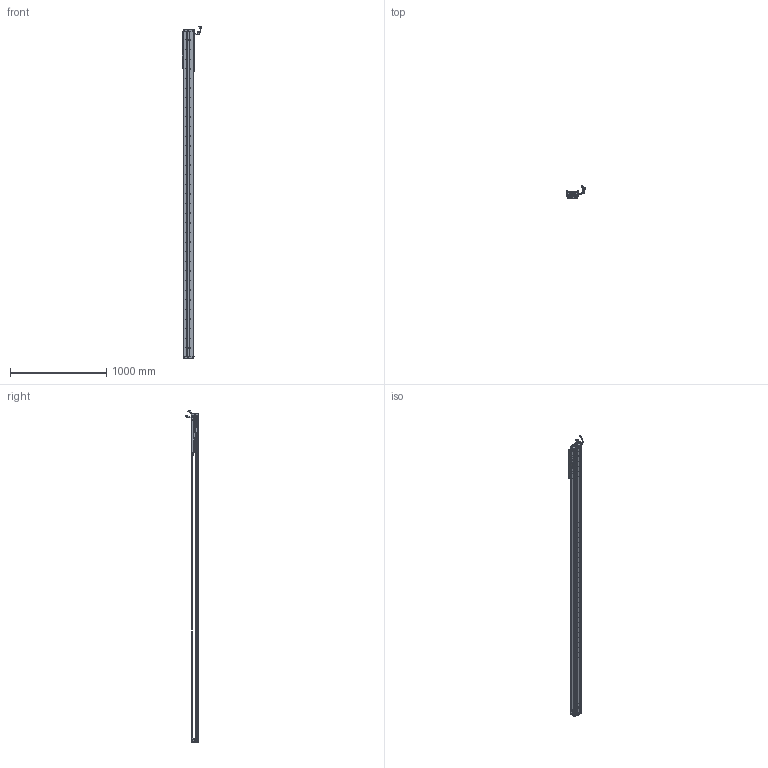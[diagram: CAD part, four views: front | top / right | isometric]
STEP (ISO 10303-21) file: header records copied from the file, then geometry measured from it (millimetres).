
FILE_DESCRIPTION (( 'STEP AP203' ), '1' );
FILE_NAME ('Z5-RY100D-1-L500-B-K.SLDASM_2950.step', '2021-05-17T03:35:50', ( '盈信电脑' ), ( '东莞市道滘镇水果街19号' ), 'SwSTEP 2.0', 'SolidWorks 2016', '' );
FILE_SCHEMA (( 'CONFIG_CONTROL_DESIGN' ));
Length unit declared in the file: millimetre
Products named in the file (36): Z5-RY100铝滑块（21款）; Z-RY100D詩湍奻揤裔; HARNESS-Part-1; PSLH080_PSLF2; SCREW-M1.6-1; Z5-RY100D-500-倰第菁釱_2950; Z5-RY100-L500詩湍90mm遵_2950; SCREW-M1.6; LABEL; SCREW-M1.6-3; HARNESS-Part-2; SCALE; Z-RY100D覜茼んえ; HOLDER0; SCREW-M1.6-2; SCREW-M1.7; 140雄赽晤鎢ん堤盄; SHIELDPLATE; COVER; SEAL-Part-1; Z-RY100D詩湍狟揤裔; PBU_SHEET; 140蚥薯蝶輸; 榋妏寠巭燃_暯_M2_2; 080黍杅芛假蚾釱21遴; Z-100詩湍傷裔啣; SEAL; SCALE-Part-2; COVER-Part-1; HARNESS; SCREW-M1.7-1; Z5-RY100D-1-L500-B-K.SLDASM_2950; SCALE-Part-1; 100-Z-臏賑輸盄裔(21遴); LABEL-Part-1; 覜茼ん672
Assembly tree (43 placements, depth 4):
  Z5-RY100D-1-L500-B-K.SLDASM_2950
    Z5-RY100D-500-倰第菁釱_2950
    Z5-RY100铝滑块（21款）
    PSLH080_PSLF2
      SCALE
        SCALE-Part-1
        SCALE-Part-2
      HARNESS
        HARNESS-Part-1
        HARNESS-Part-2
      LABEL
        LABEL-Part-1
      COVER
        COVER-Part-1
      SEAL
        SEAL-Part-1
      榋妏寠巭燃_暯_M2_2
      SHIELDPLATE
      SCREW-M1.7
      SCREW-M1.7-1
      PBU_SHEET
      SCREW-M1.6
      SCREW-M1.6-1
      SCREW-M1.6-2
      SCREW-M1.6-3
      HOLDER0
    080黍杅芛假蚾釱21遴
    Z-100詩湍傷裔啣  x2
    140蚥薯蝶輸  x2
    覜茼ん672  x3
    Z-RY100D覜茼んえ  x3
    100-Z-臏賑輸盄裔(21遴)
    140雄赽晤鎢ん堤盄
    Z5-RY100-L500詩湍90mm遵_2950
    Z-RY100D詩湍狟揤裔  x2
    Z-RY100D詩湍奻揤裔  x2
Bounding box: 205.79 x 136.11 x 3450.43 mm (x, y, z)
Volume: 6351194.6 mm3; surface area: 2480868.9 mm2
Topology: 38 solids, 38 shells, 3215 faces, 8899 edges, 5700 vertices
Faces by surface type: cylinder 1654, plane 1213, cone 226, torus 69, bspline 53
Entity records: 95265 total; most frequent: CARTESIAN_POINT 19883, DIRECTION 15473, ORIENTED_EDGE 14678, EDGE_CURVE 7339, AXIS2_PLACEMENT_3D 5866, VERTEX_POINT 4768, VECTOR 3741, LINE 3741
